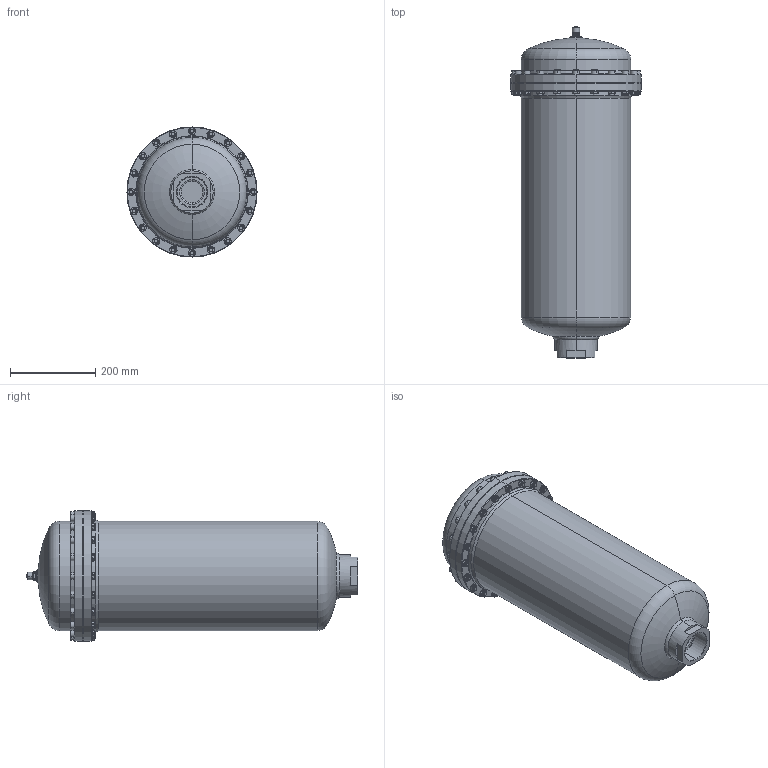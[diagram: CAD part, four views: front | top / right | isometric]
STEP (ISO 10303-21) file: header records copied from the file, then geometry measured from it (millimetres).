
FILE_DESCRIPTION (( 'STEP AP214' ), '1' );
FILE_NAME ('U350A02X1-AI.STEP', '2025-05-28T10:10:51', ( '' ), ( '' ), 'SwSTEP 2.0', 'SolidWorks 2024', '' );
FILE_SCHEMA (( 'AUTOMOTIVE_DESIGN' ));
Length unit declared in the file: millimetre
Products named in the file (1): U350A02X1-AI
Bounding box: 305 x 777.92 x 305 mm (x, y, z)
Volume: 35686105.1 mm3; surface area: 766271 mm2
Topology: 7 solids, 23 shells, 1264 faces, 2786 edges, 1634 vertices
Faces by surface type: plane 520, cone 346, cylinder 280, torus 118
Entity records: 35769 total; most frequent: CARTESIAN_POINT 8139, DIRECTION 6002, ORIENTED_EDGE 5492, EDGE_CURVE 2746, AXIS2_PLACEMENT_3D 2485, VERTEX_POINT 1634, EDGE_LOOP 1418, FACE_OUTER_BOUND 1264
